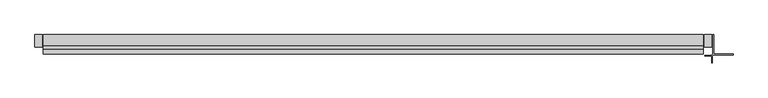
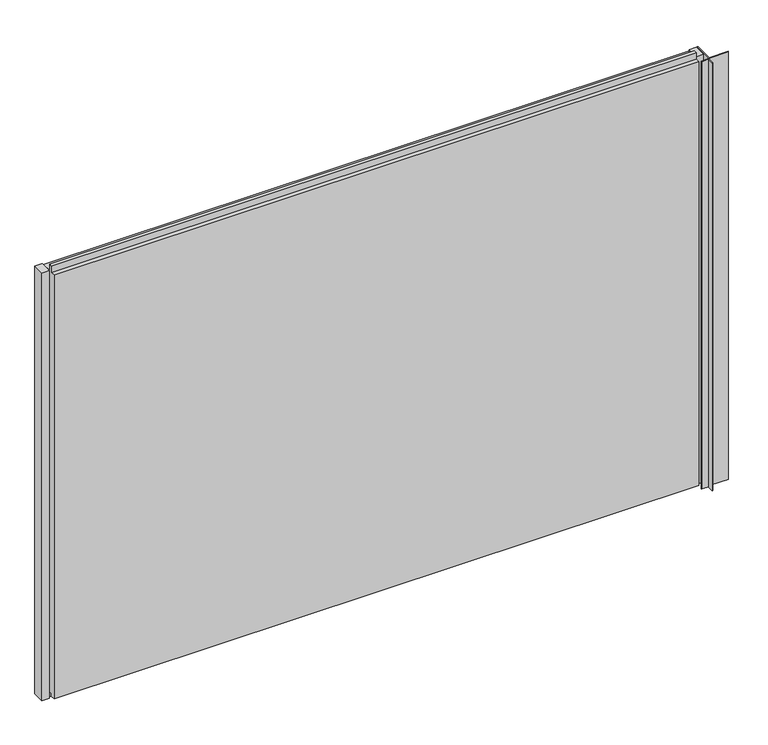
"""IFC4 building model written with IfcOpenShell, lengths in millimetres: plate geometry, Trimo_Qbiss Screen_Normal Panel-HORIZONTAL : HR - FB-F."""

import ifcopenshell
import ifcopenshell.guid

model = None  # the IFC model being written
_history = None  # IfcOwnerHistory: only IFC2X3 demands one
_inside = {}  # id of a spatial element -> (the spatial element, [elements in it])
_under = {}  # id of a project, library or spatial element -> (it, [spatial elements below it])
_declared = {}  # id of a project -> (the project, [libraries it declares])
_typed = {}  # id of a type object -> (the type object, [elements of that type])
_made_of = {}  # id of a material, layer set ... -> (it, [elements and type objects made of it])


def new_model(schema):
    """Start an empty IFC model of exactly this schema.

    Asked for "IFC4X3", IfcOpenShell would pick the latest addendum, in which some entities
    have other attributes; the version numbers below select the first issue.
    IFC2X3 requires an IfcOwnerHistory on every rooted entity: one is made here for all.
    """
    global model, _history
    if schema == "IFC4X3":
        model = ifcopenshell.file(schema_version=(4, 3, 0, 0))
    else:
        model = ifcopenshell.file(schema=schema)
    _inside.clear()
    _under.clear()
    _declared.clear()
    _typed.clear()
    _made_of.clear()
    _history = None
    if model.schema == "IFC2X3":
        org = make("IfcOrganization", Name="unknown")
        user = make(
            "IfcPersonAndOrganization",
            ThePerson=make("IfcPerson", FamilyName="unknown"),
            TheOrganization=org,
        )
        app = make(
            "IfcApplication",
            ApplicationDeveloper=org,
            Version="unknown",
            ApplicationFullName="unknown",
            ApplicationIdentifier="unknown",
        )
        _history = make(
            "IfcOwnerHistory",
            OwningUser=user,
            OwningApplication=app,
            ChangeAction="ADDED",
            CreationDate=0,
        )
    return model


def make(cls, **values):
    """One entity of the class cls with the attributes given. An attribute that is None is left unset."""
    return model.create_entity(
        cls, **{name: value for name, value in values.items() if value is not None}
    )


def rooted(cls, **values):
    """An entity with a GlobalId (a new one), such as an element, a storey or a relation."""
    return make(cls, GlobalId=ifcopenshell.guid.new(), OwnerHistory=_history, **values)


def si_unit(unit_type, name, prefix=None):
    """IfcSIUnit, for example si_unit("LENGTHUNIT", "METRE", prefix="MILLI")."""
    return make("IfcSIUnit", UnitType=unit_type, Prefix=prefix, Name=name)


def assignment(units):
    """IfcUnitAssignment: the units of a project."""
    return None if units is None else make("IfcUnitAssignment", Units=units)


def point(xyz):
    """IfcCartesianPoint."""
    return None if xyz is None else make("IfcCartesianPoint", Coordinates=xyz)


def direction(xyz):
    """IfcDirection."""
    return None if xyz is None else make("IfcDirection", DirectionRatios=xyz)


def frame(location, z_axis=None, x_axis=None):
    """IfcAxis2Placement3D, a coordinate frame: its origin and axes. An axis left out is left unset."""
    return make(
        "IfcAxis2Placement3D",
        Location=point(location),
        Axis=direction(z_axis),
        RefDirection=direction(x_axis),
    )


def origin():
    """The frame at (0, 0, 0) with its axes left unset."""
    return frame((0.0, 0.0, 0.0))


def place(relative_to, where):
    """IfcLocalPlacement: puts the frame where relative to a parent placement (None: the world)."""
    return make(
        "IfcLocalPlacement", PlacementRelTo=relative_to, RelativePlacement=where
    )


def context(
    kind, dimensions, precision=None, world=None, true_north=None, identifier=None
):
    """IfcGeometricRepresentationContext, for example the 3D "Model" context."""
    return make(
        "IfcGeometricRepresentationContext",
        ContextIdentifier=identifier,
        ContextType=kind,
        CoordinateSpaceDimension=dimensions,
        Precision=precision,
        WorldCoordinateSystem=world,
        TrueNorth=true_north,
    )


def project(units=None, contexts=None):
    """IfcProject with its units and contexts."""
    return rooted(
        "IfcProject",
        Name="project",
        RepresentationContexts=contexts,
        UnitsInContext=assignment(units),
    )


def spatial(cls, under=None, at=None, **own):
    """A site, building, storey or space (cls), placed at a placement, below another one or the project."""
    s = rooted(cls, ObjectPlacement=at, **own)
    if under is not None:
        _under.setdefault(under.id(), (under, []))[1].append(s)
    return s


def polyline(points):
    """IfcPolyline through the points."""
    return make("IfcPolyline", Points=[point(p) for p in points])


def outline(outer, holes=None, kind="AREA"):
    """IfcArbitraryClosedProfileDef: a profile drawn as a closed curve; with holes, ...WithVoids."""
    if holes is None:
        return make("IfcArbitraryClosedProfileDef", ProfileType=kind, OuterCurve=outer)
    return make(
        "IfcArbitraryProfileDefWithVoids",
        ProfileType=kind,
        OuterCurve=outer,
        InnerCurves=holes,
    )


def extrude(swept, where, along, depth):
    """IfcExtrudedAreaSolid: the profile swept, set in the frame where, extruded along a direction by depth."""
    return make(
        "IfcExtrudedAreaSolid",
        SweptArea=swept,
        Position=where,
        ExtrudedDirection=direction(along),
        Depth=depth,
    )


def shape(context_of_items, identifier, shape_type, items):
    """IfcShapeRepresentation: the items that make up one representation, for example the "Body"."""
    return make(
        "IfcShapeRepresentation",
        ContextOfItems=context_of_items,
        RepresentationIdentifier=identifier,
        RepresentationType=shape_type,
        Items=items,
    )


def source(mapping_origin, context_of_items, identifier, shape_type, items):
    """IfcRepresentationMap: a shape defined once, which mapped items show again and again."""
    return make(
        "IfcRepresentationMap",
        MappingOrigin=mapping_origin,
        MappedRepresentation=shape(context_of_items, identifier, shape_type, items),
    )


def transform(
    local_origin,
    x_axis=None,
    y_axis=None,
    z_axis=None,
    scale=None,
    scale2=None,
    scale3=None,
    uniform=True,
):
    """IfcCartesianTransformationOperator3D, or its non-uniform kind. x_axis, y_axis, z_axis: its Axis1, 2, 3."""
    if uniform:
        return make(
            "IfcCartesianTransformationOperator3D",
            Axis1=direction(x_axis),
            Axis2=direction(y_axis),
            LocalOrigin=point(local_origin),
            Scale=scale,
            Axis3=direction(z_axis),
        )
    return make(
        "IfcCartesianTransformationOperator3DnonUniform",
        Axis1=direction(x_axis),
        Axis2=direction(y_axis),
        LocalOrigin=point(local_origin),
        Scale=scale,
        Axis3=direction(z_axis),
        Scale2=scale2,
        Scale3=scale3,
    )


def mapped(mapping_source, mapping_target):
    """IfcMappedItem: shows the shape of a source again, moved by a transform."""
    return make(
        "IfcMappedItem", MappingSource=mapping_source, MappingTarget=mapping_target
    )


def made_of(thing, what):
    """Note that an element or type object is made of a material, layer set ...; save() writes the relation."""
    if what is not None:
        _made_of.setdefault(what.id(), (what, []))[1].append(thing)
    return thing


def element(
    cls,
    number,
    at=None,
    inside=None,
    cuts=None,
    type_object=None,
    material=None,
    context=None,
    identifier="Body",
    shape_type=None,
    held_by="IfcProductDefinitionShape",
    body=None,
    shapes=None,
    **own,
):
    """One element of the class cls, such as IfcWall. Its Tag is "e" and its number.

    at: its placement. inside: the storey or other place that contains it. cuts: it is an
    opening in that element (IfcRelVoidsElement). A single representation is given by context,
    identifier, shape_type and body (its items); several are given by shapes. held_by: the class
    of the entity that holds the representations. save() writes the other relations.
    """
    e = rooted(cls, Tag="e%d" % number, ObjectPlacement=at, **own)
    if body is not None:
        shapes = [shape(context, identifier, shape_type, body)]
    if shapes is not None:
        e.Representation = make(held_by, Representations=shapes)
    if inside is not None:
        _inside.setdefault(inside.id(), (inside, []))[1].append(e)
    if cuts is not None:
        rooted(
            "IfcRelVoidsElement", RelatingBuildingElement=cuts, RelatedOpeningElement=e
        )
    if type_object is not None:
        _typed.setdefault(type_object.id(), (type_object, []))[1].append(e)
    return made_of(e, material)


def aggregate(whole, parts):
    """IfcRelAggregates: a whole, such as a stair, and the parts it consists of."""
    return rooted("IfcRelAggregates", RelatingObject=whole, RelatedObjects=parts)


def save(model, path):
    """Write the relations noted so far, then the file.

    IfcRelAggregates (storeys below a building ...), IfcRelContainedInSpatialStructure (elements
    in a storey), IfcRelDefinesByType, IfcRelAssociatesMaterial and IfcRelDeclares: one each for
    every whole, place, type object, material and project.
    """
    for whole, parts in _under.values():
        aggregate(whole, parts)
    for where, things in _inside.values():
        rooted(
            "IfcRelContainedInSpatialStructure",
            RelatedElements=things,
            RelatingStructure=where,
        )
    for kind, things in _typed.values():
        rooted("IfcRelDefinesByType", RelatedObjects=things, RelatingType=kind)
    for what, things in _made_of.values():
        rooted("IfcRelAssociatesMaterial", RelatedObjects=things, RelatingMaterial=what)
    for by, libraries in _declared.values():
        rooted("IfcRelDeclares", RelatingContext=by, RelatedDefinitions=libraries)
    model.write(path)


def plate_5b3d9199(model_context):
    return source(origin(), model_context, "Body", "SweptSolid", [
        extrude(outline(polyline([(-840.5, 67.8978162), (-859.5, 67.8978162), (-859.5, 100.0), (-840.5, 100.0), (-840.5, 67.8978162)])), frame((0.0, 0.0, -1.0), z_axis=(0.0, 0.0, 1.0), x_axis=(1.0, 0.0, 0.0)), (0.0, 0.0, 1.0), 1200.0),
        extrude(outline(polyline([(895.0, 67.8978162), (876.0, 67.8978162), (876.0, 100.0), (895.0, 100.0), (895.0, 67.8978162)])), frame((0.0, 0.0, -1.0), z_axis=(0.0, 0.0, 1.0), x_axis=(1.0, 0.0, 0.0)), (0.0, 0.0, 1.0), 1200.0),
        extrude(outline(polyline([(71.0, 1196.0), (100.0, 1196.0), (100.0, 0.0), (72.0, 0.0), (72.0, 15.5), (62.0, 15.5), (62.0, 7.0), (50.0, 7.0), (50.0, 1196.0), (63.0, 1196.0), (63.0, 1214.5), (71.0, 1214.5), (71.0, 1196.0)])), frame((-837.5, 0.0, 0.0), z_axis=(1.0, 0.0, 0.0), x_axis=(0.0, 1.0, 0.0)), (0.0, 0.0, 1.0), 1710.5),
        extrude(outline(polyline([(898.0, 100.0), (900.0, 100.0), (900.0, 49.8183206), (950.2, 49.8183206), (950.2, 47.8183206), (899.4142136, 47.8183206), (896.6823429, 45.0864499), (896.6823429, 26.5864499), (894.6823429, 26.5864499), (894.6823429, 44.5006635), (876.7681293, 44.5006635), (876.7681293, 46.5006635), (895.2681293, 46.5006635), (898.0, 49.2325342), (898.0, 100.0)])), frame((0.0, 0.0, -1.0), z_axis=(0.0, 0.0, 1.0), x_axis=(1.0, 0.0, 0.0)), (0.0, 0.0, 1.0), 1200.0),
    ])


if __name__ == "__main__":
    model = new_model("IFC4")
    model_context = context("Model", 3, world=origin())
    ifc_project = project(units=[si_unit("LENGTHUNIT", "METRE", prefix="MILLI")], contexts=[model_context])
    site = spatial("IfcSite", under=ifc_project)
    building = spatial("IfcBuilding", under=site)
    placement = place(None, origin())
    plate_shape = plate_5b3d9199(model_context)
    element("IfcPlate", 1, ObjectType="Trimo_Qbiss Screen_Normal Panel-HORIZONTAL : HR - FB-F", at=placement, inside=building, context=model_context, shape_type="MappedRepresentation", body=[
        mapped(plate_shape, transform((0.0, 0.0, 0.0), x_axis=(1.0, 0.0, 0.0), y_axis=(0.0, 1.0, 0.0), z_axis=(0.0, 0.0, 1.0))),
    ])
    save(model, "model.ifc")
